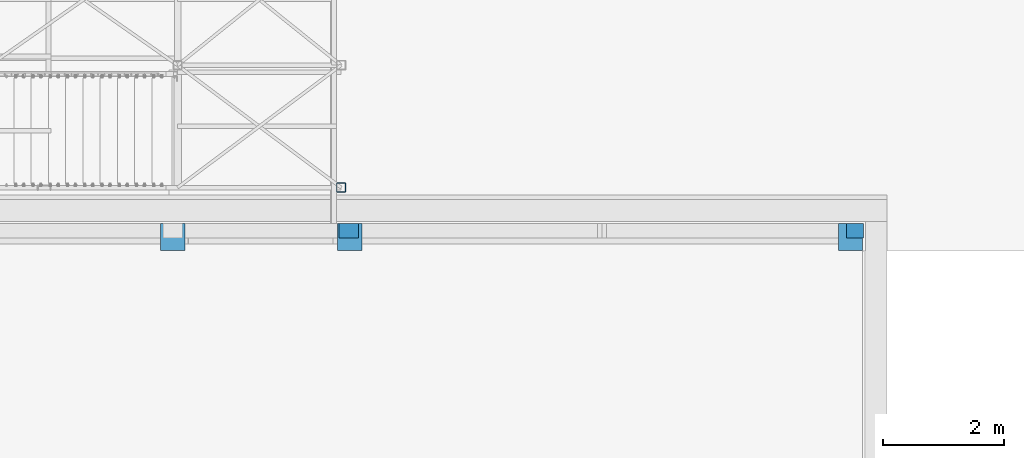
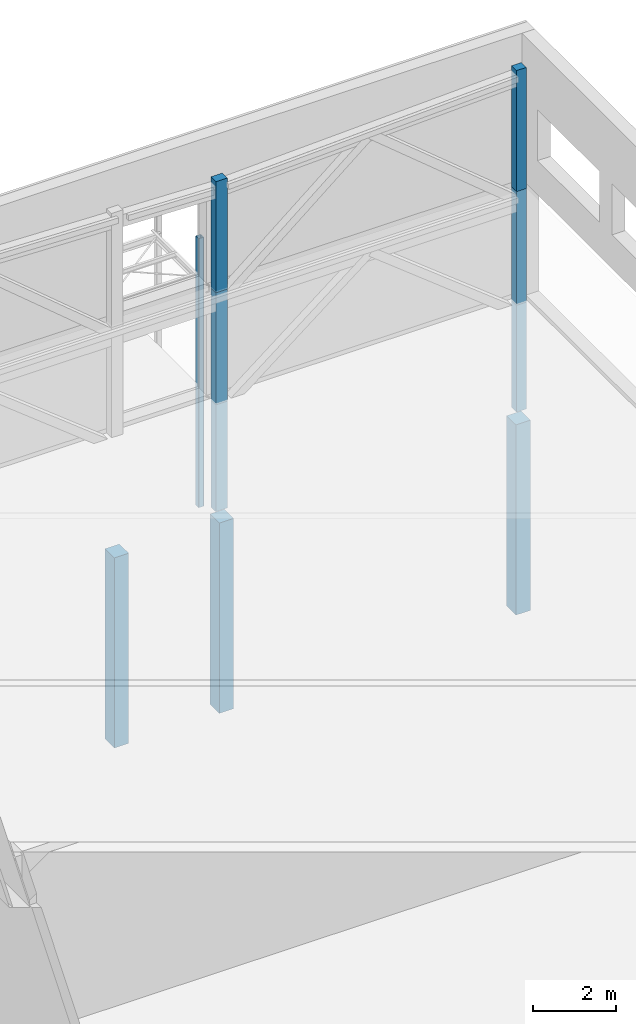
# One storey, part 10 of 78: 10 columns, 10 elements without a shape of their own.
"""IFC2X3 building model written with IfcOpenShell, lengths in millimetres."""

from ifc_helpers import new_model, si_unit, frame, origin_with_axes, origin_2d_with_axis, place, context, subcontext, project, spatial, rectangle, hollow_rectangle, extrude, material, type_object, element, aggregate, save


model = new_model("IFC2X3")

# Units and contexts
model_context = context("Model", 3, precision=1e-05, world=origin_with_axes())
body_context = subcontext(model_context, "Body", "Model", "MODEL_VIEW")
ifc_project = project(units=[si_unit("LENGTHUNIT", "METRE", prefix="MILLI"), si_unit("AREAUNIT", "SQUARE_METRE"), si_unit("VOLUMEUNIT", "CUBIC_METRE"), si_unit("MASSUNIT", "GRAM", prefix="KILO"), si_unit("TIMEUNIT", "SECOND"), si_unit("PLANEANGLEUNIT", "RADIAN"), si_unit("SOLIDANGLEUNIT", "STERADIAN"), si_unit("THERMODYNAMICTEMPERATUREUNIT", "DEGREE_CELSIUS"), si_unit("LUMINOUSINTENSITYUNIT", "LUMEN")], contexts=[model_context])

# Site, building, storey
site_placement = place(None, origin_with_axes())
site = spatial("IfcSite", under=ifc_project, at=site_placement, Name="Site", CompositionType="ELEMENT")
building_placement = place(site_placement, origin_with_axes())
building = spatial("IfcBuilding", under=site, at=building_placement, Name="Undefined", CompositionType="ELEMENT")
storey_placement = place(building_placement, origin_with_axes())
storey = spatial("IfcBuildingStorey", under=building, at=storey_placement, Name="Undefined", CompositionType="ELEMENT", Elevation=0.0)

# Assembly, column
assembly_1_placement = place(storey_placement, origin_with_axes())
assembly_1 = element("IfcElementAssembly", 1, at=assembly_1_placement, inside=storey, Name="POUTRE", AssemblyPlace="NOTDEFINED", PredefinedType="NOTDEFINED")
ifc_material_1 = material(Name="TIMBER/CHENE")
column_type_1 = type_object("IfcColumnType", Name="320*240", PredefinedType="NOTDEFINED")
column_1_placement = place(assembly_1_placement, frame((4326.56753540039, 28014.9986327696, 153400.039864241), z_axis=(0.0, 0.0, 1.0), x_axis=(-1.0, 0.0, 0.0)))
column_1 = element("IfcColumn", 2, at=column_1_placement, type_object=column_type_1, material=ifc_material_1, Name="POUTRE", ObjectType="320*240", context=body_context, shape_type="SweptSolid", body=[
    extrude(rectangle(XDim=240.0, YDim=320.0, at=origin_2d_with_axis()), frame((0.0, 0.0, 3149.98874114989), z_axis=(0.0, 0.0, -1.0), x_axis=(0.0, 1.0, 0.0)), (0.0, 0.0, 1.0), 3149.99),
])
aggregate(assembly_1, [column_1])

assembly_2_placement = place(storey_placement, origin_with_axes())
assembly_2 = element("IfcElementAssembly", 3, at=assembly_2_placement, inside=storey, Name="POUTRE", AssemblyPlace="NOTDEFINED", PredefinedType="NOTDEFINED")
column_2_placement = place(assembly_2_placement, frame((4326.5676164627, 28014.998550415, 156550.033569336), z_axis=(0.0, 0.0, 1.0), x_axis=(-1.0, 0.0, 0.0)))
column_2 = element("IfcColumn", 4, at=column_2_placement, type_object=column_type_1, material=ifc_material_1, Name="POUTRE", ObjectType="320*240", context=body_context, shape_type="SweptSolid", body=[
    extrude(rectangle(XDim=240.0, YDim=320.0, at=origin_2d_with_axis()), frame((0.0, 0.0, 3300.00874114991), z_axis=(0.0, 0.0, -1.0), x_axis=(0.0, 1.0, 0.0)), (0.0, 0.0, 1.0), 3300.01),
])
aggregate(assembly_2, [column_2])

assembly_3_placement = place(storey_placement, origin_with_axes())
assembly_3 = element("IfcElementAssembly", 5, at=assembly_3_placement, inside=storey, Name="POUTRE", AssemblyPlace="NOTDEFINED", PredefinedType="NOTDEFINED")
column_3_placement = place(assembly_3_placement, frame((4326.56753540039, 28014.9986327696, 159850.040150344), z_axis=(0.0, 0.0, 1.0), x_axis=(-1.0, 0.0, 0.0)))
column_3 = element("IfcColumn", 6, at=column_3_placement, type_object=column_type_1, material=ifc_material_1, Name="POUTRE", ObjectType="320*240", context=body_context, shape_type="SweptSolid", body=[
    extrude(rectangle(XDim=240.0, YDim=320.0, at=origin_2d_with_axis()), frame((0.0, 0.0, 3279.9987411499), z_axis=(0.0, 0.0, -1.0), x_axis=(0.0, 1.0, 0.0)), (0.0, 0.0, 1.0), 3280.0),
])
aggregate(assembly_3, [column_3])

assembly_4_placement = place(storey_placement, origin_with_axes())
assembly_4 = element("IfcElementAssembly", 7, at=assembly_4_placement, inside=storey, Name="POUTRE", AssemblyPlace="NOTDEFINED", PredefinedType="NOTDEFINED")
column_type_2 = type_object("IfcColumnType", Name="280*240", PredefinedType="NOTDEFINED")
column_4_placement = place(assembly_4_placement, frame((12686.5676498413, 28014.9985504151, 153400.039196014), z_axis=(0.0, 0.0, 1.0), x_axis=(-1.0, 0.0, 0.0)))
column_4 = element("IfcColumn", 8, at=column_4_placement, type_object=column_type_2, material=ifc_material_1, Name="POUTRE", ObjectType="280*240", context=body_context, shape_type="SweptSolid", body=[
    extrude(rectangle(XDim=240.0, YDim=280.0, at=origin_2d_with_axis()), frame((0.0, 0.0, 3149.9987411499), z_axis=(0.0, 0.0, -1.0), x_axis=(0.0, 1.0, 0.0)), (0.0, 0.0, 1.0), 3150.0),
])
aggregate(assembly_4, [column_4])

assembly_5_placement = place(storey_placement, origin_with_axes())
assembly_5 = element("IfcElementAssembly", 9, at=assembly_5_placement, inside=storey, Name="POUTRE", AssemblyPlace="NOTDEFINED", PredefinedType="NOTDEFINED")
column_5_placement = place(assembly_5_placement, frame((12686.5676498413, 28014.9985504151, 156550.039291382), z_axis=(0.0, 0.0, 1.0), x_axis=(-1.0, 0.0, 0.0)))
column_5 = element("IfcColumn", 10, at=column_5_placement, type_object=column_type_2, material=ifc_material_1, Name="POUTRE", ObjectType="280*240", context=body_context, shape_type="SweptSolid", body=[
    extrude(rectangle(XDim=240.0, YDim=280.0, at=origin_2d_with_axis()), frame((0.0, 0.0, 3349.9987411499), z_axis=(0.0, 0.0, -1.0), x_axis=(0.0, 1.0, 0.0)), (0.0, 0.0, 1.0), 3350.0),
])
aggregate(assembly_5, [column_5])

assembly_6_placement = place(storey_placement, origin_with_axes())
assembly_6 = element("IfcElementAssembly", 11, at=assembly_6_placement, inside=storey, Name="POUTRE", AssemblyPlace="NOTDEFINED", PredefinedType="NOTDEFINED")
column_6_placement = place(assembly_6_placement, frame((12686.5676498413, 28014.998550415, 159900.039672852), z_axis=(0.0, 0.0, 1.0), x_axis=(-1.0, 0.0, 0.0)))
column_6 = element("IfcColumn", 12, at=column_6_placement, type_object=column_type_2, material=ifc_material_1, Name="POUTRE", ObjectType="280*240", context=body_context, shape_type="SweptSolid", body=[
    extrude(rectangle(XDim=240.0, YDim=280.0, at=origin_2d_with_axis()), frame((0.0, 0.0, 3569.9987411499), z_axis=(0.0, 0.0, -1.0), x_axis=(0.0, 1.0, 0.0)), (0.0, 0.0, 1.0), 3570.0),
])
aggregate(assembly_6, [column_6])

assembly_7_placement = place(storey_placement, origin_with_axes())
assembly_7 = element("IfcElementAssembly", 13, at=assembly_7_placement, inside=storey, Name="POTEAU", AssemblyPlace="NOTDEFINED", PredefinedType="RIGID_FRAME")
ifc_material_2 = material(Name="STEEL/S275JR")
column_type_3 = type_object("IfcColumnType", Name="TUBE-C-150*150*5", PredefinedType="NOTDEFINED")
column_7_placement = place(assembly_7_placement, frame((4198.57, 28728.0, 153070.04), z_axis=(0.0, 0.0, 1.0), x_axis=(0.0, 1.0, 0.0)))
column_7 = element("IfcColumn", 14, at=column_7_placement, type_object=column_type_3, material=ifc_material_2, Name="POTEAU", ObjectType="TUBE-C-150*150*5", context=body_context, shape_type="SweptSolid", body=[
    extrude(hollow_rectangle(XDim=150.0, YDim=150.0, WallThickness=5.0, InnerFilletRadius=5.0, OuterFilletRadius=10.0, at=origin_2d_with_axis()), frame((0.0, 0.0, 7930.0), z_axis=(0.0, 0.0, -1.0), x_axis=(0.0, 1.0, 0.0)), (0.0, 0.0, 1.0), 7930.0),
])
aggregate(assembly_7, [column_7])

assembly_8_placement = place(storey_placement, origin_with_axes())
assembly_8 = element("IfcElementAssembly", 15, at=assembly_8_placement, inside=storey, Name="POTEAU", AssemblyPlace="NOTDEFINED", PredefinedType="REINFORCEMENT_UNIT")
ifc_material_3 = material(Name="CONCRETE/C25/30")
column_type_4 = type_object("IfcColumnType", Name="450*400", PredefinedType="NOTDEFINED")
column_8_placement = place(assembly_8_placement, frame((1416.56709861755, 27909.9999542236, 147592.401223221), z_axis=(0.0, 0.0, 1.0), x_axis=(0.0, 1.0, 0.0)))
column_8 = element("IfcColumn", 16, at=column_8_placement, type_object=column_type_4, material=ifc_material_3, Name="POTEAU", ObjectType="450*400", context=body_context, shape_type="SweptSolid", body=[
    extrude(rectangle(XDim=400.0, YDim=450.0, at=origin_2d_with_axis()), frame((0.0, 0.0, 5607.63999999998), z_axis=(0.0, 0.0, -1.0), x_axis=(0.0, 1.0, 0.0)), (0.0, 0.0, 1.0), 5607.64),
])
aggregate(assembly_8, [column_8])

assembly_9_placement = place(storey_placement, origin_with_axes())
assembly_9 = element("IfcElementAssembly", 17, at=assembly_9_placement, inside=storey, Name="POTEAU", AssemblyPlace="NOTDEFINED", PredefinedType="REINFORCEMENT_UNIT")
column_9_placement = place(assembly_9_placement, frame((4341.84743118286, 27909.9999542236, 147592.401223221), z_axis=(0.0, 0.0, 1.0), x_axis=(0.0, 1.0, 0.0)))
column_9 = element("IfcColumn", 18, at=column_9_placement, type_object=column_type_4, material=ifc_material_3, Name="POTEAU", ObjectType="450*400", context=body_context, shape_type="SweptSolid", body=[
    extrude(rectangle(XDim=400.0, YDim=450.0, at=origin_2d_with_axis()), frame((0.0, 0.0, 5607.63999999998), z_axis=(0.0, 0.0, -1.0), x_axis=(0.0, 1.0, 0.0)), (0.0, 0.0, 1.0), 5607.64),
])
aggregate(assembly_9, [column_9])

assembly_10_placement = place(storey_placement, origin_with_axes())
assembly_10 = element("IfcElementAssembly", 19, at=assembly_10_placement, inside=storey, Name="POTEAU", AssemblyPlace="NOTDEFINED", PredefinedType="REINFORCEMENT_UNIT")
column_10_placement = place(assembly_10_placement, frame((12615.0002593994, 27909.9999542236, 147592.4), z_axis=(0.0, 0.0, 1.0), x_axis=(0.0, 1.0, 0.0)))
column_10 = element("IfcColumn", 20, at=column_10_placement, type_object=column_type_4, material=ifc_material_3, Name="POTEAU", ObjectType="450*400", context=body_context, shape_type="SweptSolid", body=[
    extrude(rectangle(XDim=400.0, YDim=450.0, at=origin_2d_with_axis()), frame((0.0, 0.0, 5607.63999999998), z_axis=(0.0, 0.0, -1.0), x_axis=(0.0, 1.0, 0.0)), (0.0, 0.0, 1.0), 5607.64),
])
aggregate(assembly_10, [column_10])

save(model, "model.ifc")
